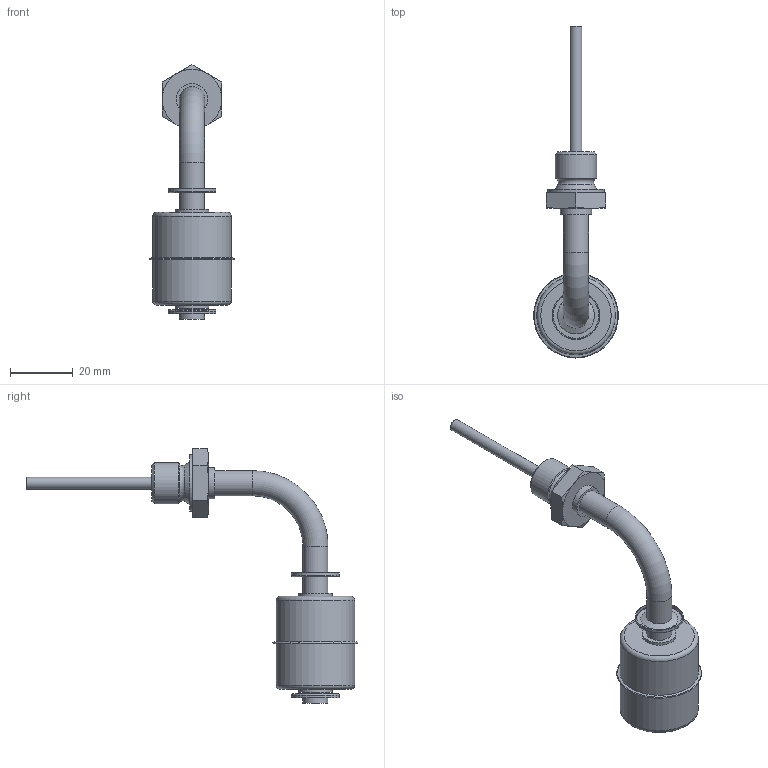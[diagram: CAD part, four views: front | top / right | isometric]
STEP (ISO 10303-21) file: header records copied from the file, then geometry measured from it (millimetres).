
FILE_DESCRIPTION(/* description */ ('Katalogmodell Elobau'),/* implementation_level */ '2;1');
FILE_NAME(/* name */ '2094118001_B.stp',/* time_stamp */ '2014-09-30T15:15:33+02:00',/* author */ ('Elobau GmbH & Co. KG'),/* organization */ ('Elobau GmbH & Co. KG'),/* preprocessor_version */ 'ST-DEVELOPER v15',/* originating_system */ 'SIEMENS PLM Software NX 8.5',/* authorisation */ '');
FILE_SCHEMA (('AUTOMOTIVE_DESIGN { 1 0 10303 214 3 1 1 1 }'));
Length unit declared in the file: millimetre
Products named in the file (1): 2094118001_B
Bounding box: 27 x 105.5 x 80.97 mm (x, y, z)
Volume: 21813.4 mm3; surface area: 7624.6 mm2
Topology: 1 solids, 1 shells, 64 faces, 127 edges, 80 vertices
Faces by surface type: plane 23, cylinder 17, cone 15, torus 9
Full cylindrical faces by diameter (mm): 3.8 x1, 8 x5, 10 x1, 10.7 x2, 13.157 x1, 14.75 x2, 15.25 x2, 18 x1, 25 x2
Entity records: 1536 total; most frequent: DIRECTION 254, CARTESIAN_POINT 249, ORIENTED_EDGE 160, AXIS2_PLACEMENT_3D 121, EDGE_LOOP 114, FACE_BOUND 100, EDGE_CURVE 80, VERTEX_POINT 68
